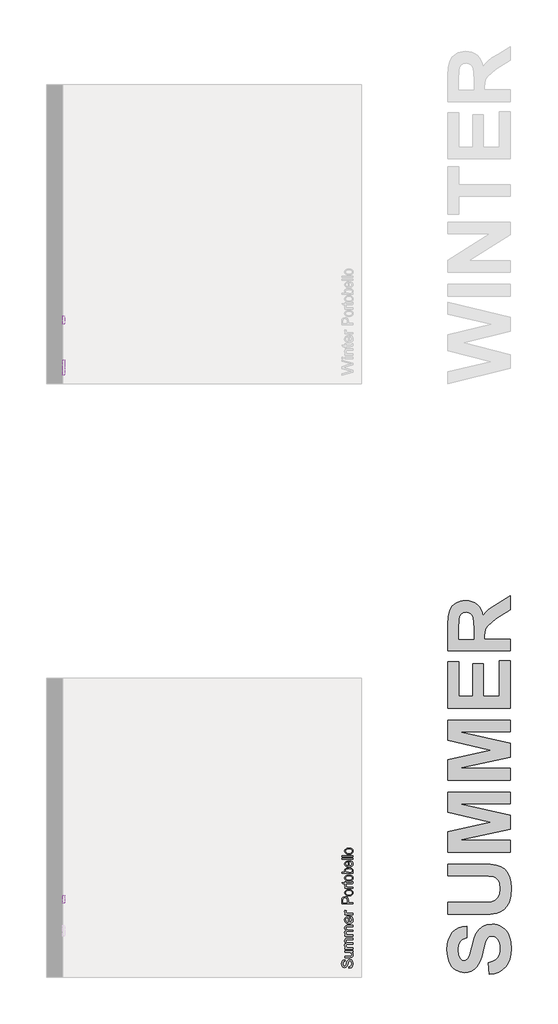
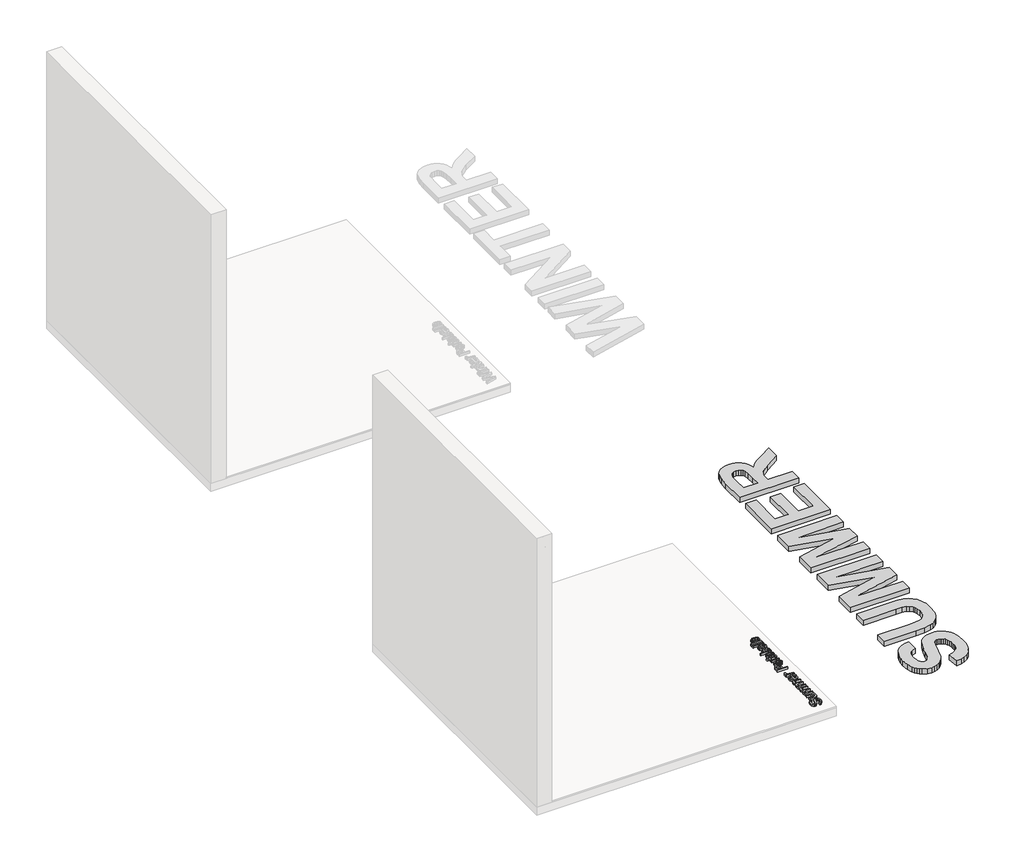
# One storey, part 6 of 7: 6 proxies.
"""IFC4 building model written with IfcOpenShell, lengths in millimetres."""

from ifc_helpers import new_model, si_unit, frame, origin, origin_with_axes, place, context, project, spatial, polyline, outline, extrude, element, save

model = new_model("IFC4")

# Units and contexts
model_context = context("Model", 3, world=origin())
ifc_project = project(units=[si_unit("LENGTHUNIT", "METRE", prefix="MILLI")], contexts=[model_context])

# Site, building, storey
site = spatial("IfcSite", under=ifc_project)
building = spatial("IfcBuilding", under=site)
storey = spatial("IfcBuildingStorey", under=building, Name="PORTOBELLO - SHOWROOM", Elevation=0.0)

# Proxies
placement = place(None, origin())
element("IfcBuildingElementProxy", 1, Name="10mm Arial", ObjectType="10mm Arial", at=placement, inside=storey, context=model_context, shape_type="SweptSolid", body=[
    extrude(outline(polyline([(7495.0671337, 2482.3811258), (7495.0671337, 2582.837436), (7532.2967916, 2582.837436), (7547.306377, 2581.8809428), (7559.5077965, 2577.184316), (7567.4172594, 2567.4722313), (7570.4093663, 2553.7747584), (7568.389081, 2541.9350895), (7562.3282251, 2532.0697206), (7550.994394, 2525.4110565), (7533.1551829, 2523.1915018), (7507.6241724, 2523.1915018), (7507.6241724, 2482.3811258), (7495.0671337, 2482.3811258)]), holes=[polyline([(7507.6241724, 2535.7485406), (7533.8909469, 2535.7485406), (7552.3831485, 2540.3593283), (7556.4850328, 2545.908215), (7557.8523275, 2553.3333), (7554.6272287, 2563.7320977), (7546.1536801, 2569.4220059), (7533.5966413, 2570.2803972), (7507.6241724, 2570.2803972), (7507.6241724, 2535.7485406)])]), frame((-21807.9634769, 0.0, 0.0), z_axis=(1.0, 0.0, 0.0), x_axis=(0.0, 1.0, 0.0)), (0.0, 0.0, 1.0), 20.0),
    extrude(outline(polyline([(7582.966405, 2519.2674272), (7585.6826004, 2537.0545217), (7593.8311866, 2549.5563782), (7603.8988906, 2555.6816134), (7615.9531573, 2557.7233584), (7629.1447925, 2555.2370893), (7639.681546, 2547.7782818), (7646.5885304, 2535.9355473), (7648.8908586, 2520.2974968), (7644.8196312, 2497.954797), (7632.9615682, 2485.3119191), (7615.9531573, 2480.811496), (7602.6021065, 2483.2885681), (7592.0776158, 2490.7197844), (7585.2442077, 2502.8108393), (7582.966405, 2519.2674272)]), holes=[polyline([(7595.5234438, 2519.2919527), (7596.9765777, 2507.9274647), (7601.3359793, 2499.8309951), (7607.8965416, 2494.9841499), (7615.9531573, 2493.3685348), (7623.9729848, 2494.9933469), (7630.5212843, 2499.8677833), (7634.8806859, 2508.0715518), (7636.3338198, 2519.6843601), (7634.8714889, 2530.7177543), (7630.4844961, 2538.7038593), (7623.9269995, 2543.5507046), (7615.9531573, 2545.1663197), (7607.8965416, 2543.5568359), (7601.3359793, 2538.7283848), (7596.9765777, 2530.6503093), (7595.5234438, 2519.2919527)])]), frame((-21807.9634769, 0.0, 0.0), z_axis=(1.0, 0.0, 0.0), x_axis=(0.0, 1.0, 0.0)), (0.0, 0.0, 1.0), 20.0),
    extrude(outline(polyline([(7663.0175272, 2482.3811258), (7663.0175272, 2556.1537286), (7674.0049361, 2556.1537286), (7674.0049361, 2545.2398961), (7681.8040344, 2555.2953373), (7689.6521836, 2557.7233584), (7702.2582733, 2553.8483348), (7698.0644186, 2542.5911457), (7689.2352507, 2545.1663197), (7682.1351282, 2542.6892476), (7677.6101797, 2535.822117), (7675.574566, 2521.1558881), (7675.574566, 2482.3811258), (7663.0175272, 2482.3811258)])), frame((-21807.9634769, 0.0, 0.0), z_axis=(1.0, 0.0, 0.0), x_axis=(0.0, 1.0, 0.0)), (0.0, 0.0, 1.0), 20.0),
    extrude(outline(polyline([(7736.79013, 2492.8535), (7738.3597598, 2482.0132438), (7728.9665062, 2480.811496), (7718.4450811, 2482.8961606), (7713.1966313, 2488.3653396), (7711.6760524, 2502.6146356), (7711.6760524, 2543.5966898), (7702.2582733, 2543.5966898), (7702.2582733, 2553.8483348), (7702.2582733, 2556.1537286), (7711.6760524, 2556.1537286), (7711.6760524, 2574.0818445), (7724.2330912, 2581.4640099), (7724.2330912, 2556.1537286), (7736.79013, 2556.1537286), (7736.79013, 2543.5966898), (7724.2330912, 2543.5966898), (7724.2330912, 2502.9825176), (7724.8952788, 2496.5077944), (7727.0412571, 2494.2146633), (7731.320951, 2493.3685348), (7736.79013, 2492.8535)])), frame((-21807.9634769, 0.0, 0.0), z_axis=(1.0, 0.0, 0.0), x_axis=(0.0, 1.0, 0.0)), (0.0, 0.0, 1.0), 20.0),
    extrude(outline(polyline([(7746.207909, 2519.2674272), (7748.9241044, 2537.0545217), (7757.0726906, 2549.5563782), (7767.1403946, 2555.6816134), (7779.1946613, 2557.7233584), (7792.3862965, 2555.2370893), (7802.92305, 2547.7782818), (7809.8300344, 2535.9355473), (7812.1323626, 2520.2974968), (7808.0611352, 2497.954797), (7796.2030722, 2485.3119191), (7779.1946613, 2480.811496), (7765.8436105, 2483.2885681), (7755.3191198, 2490.7197844), (7748.4857117, 2502.8108393), (7746.207909, 2519.2674272)]), holes=[polyline([(7758.7649478, 2519.2919527), (7760.2180817, 2507.9274647), (7764.5774833, 2499.8309951), (7771.1380456, 2494.9841499), (7779.1946613, 2493.3685348), (7787.2144888, 2494.9933469), (7793.7627883, 2499.8677833), (7798.1221899, 2508.0715518), (7799.5753238, 2519.6843601), (7798.1129929, 2530.7177543), (7793.7260001, 2538.7038593), (7787.1685035, 2543.5507046), (7779.1946613, 2545.1663197), (7771.1380456, 2543.5568359), (7764.5774833, 2538.7283848), (7760.2180817, 2530.6503093), (7758.7649478, 2519.2919527)])]), frame((-21807.9634769, 0.0, 0.0), z_axis=(1.0, 0.0, 0.0), x_axis=(0.0, 1.0, 0.0)), (0.0, 0.0, 1.0), 20.0),
    extrude(outline(polyline([(7838.81607, 2482.3811258), (7826.2590312, 2482.3811258), (7826.2590312, 2582.837436), (7838.81607, 2582.837436), (7838.81607, 2545.5832526), (7847.6084496, 2554.688332), (7858.5345449, 2557.7233584), (7871.1161091, 2554.9887689), (7880.8772447, 2547.3000352), (7886.8737213, 2535.3438704), (7889.044225, 2520.3710732), (7886.7970792, 2503.607917), (7880.0556416, 2491.1367173), (7870.1626816, 2483.3928013), (7858.4609685, 2480.811496), (7847.2957499, 2484.140828), (7838.81607, 2494.1288242), (7838.81607, 2482.3811258)]), holes=[polyline([(7838.81607, 2519.782462), (7842.2496352, 2502.2222281), (7848.8285916, 2495.5819581), (7857.381848, 2493.3685348), (7864.6291233, 2494.9994783), (7870.8218035, 2499.8923088), (7875.0708406, 2508.0163695), (7876.4871863, 2519.3410036), (7875.1290886, 2530.8311846), (7871.0547955, 2538.8632748), (7865.0552533, 2543.5905585), (7857.9214082, 2545.1663197), (7850.6741329, 2543.5353762), (7844.4814527, 2538.6425456), (7840.2324156, 2530.6656377), (7838.81607, 2519.782462)])]), frame((-21807.9634769, 0.0, 0.0), z_axis=(1.0, 0.0, 0.0), x_axis=(0.0, 1.0, 0.0)), (0.0, 0.0, 1.0), 20.0),
    extrude(outline(polyline([(7954.8215258, 2504.3559437), (7967.1333099, 2502.7863138), (7962.6972661, 2493.5095562), (7955.6186034, 2486.5749806), (7946.0567372, 2482.2523671), (7934.1710831, 2480.811496), (7919.4374092, 2483.2977651), (7908.1005124, 2490.7565726), (7900.8716312, 2502.7035404), (7898.4620041, 2518.6542906), (7900.8961566, 2535.1415353), (7908.1986142, 2547.4717135), (7919.3822269, 2555.1604472), (7933.4598446, 2557.7233584), (7947.0990695, 2555.1665786), (7957.9975737, 2547.496239), (7965.1436814, 2535.1905862), (7967.5257173, 2518.727867), (7967.4521409, 2515.3433526), (7911.0190429, 2515.3433526), (7913.1926123, 2505.9439676), (7918.2417927, 2499.0339175), (7925.5289219, 2494.7848804), (7934.4163378, 2493.3685348), (7946.7281219, 2495.9927597), (7954.8215258, 2504.3559437)]), holes=[polyline([(7911.0190429, 2527.9003914), (7954.9686786, 2527.9003914), (7949.940958, 2539.2802078), (7942.6201063, 2543.6947917), (7933.4107936, 2545.1663197), (7917.9474871, 2540.4696929), (7913.0822477, 2534.9790541), (7911.0190429, 2527.9003914)])]), frame((-21807.9634769, 0.0, 0.0), z_axis=(1.0, 0.0, 0.0), x_axis=(0.0, 1.0, 0.0)), (0.0, 0.0, 1.0), 20.0),
    extrude(outline(polyline([(-21787.9634769, 7992.6397949), (-21787.9634769, 7980.0827561), (-21807.9634769, 7980.0827561), (-21807.9634769, 7992.6397949), (-21787.9634769, 7992.6397949)])), frame((0.0, 0.0, 2482.3811258), z_axis=(0.0, 0.0, 1.0), x_axis=(1.0, 0.0, 0.0)), (0.0, 0.0, 1.0), 100.4563101),
    extrude(outline(polyline([(-21787.9634769, 8024.0323918), (-21787.9634769, 8011.475353), (-21807.9634769, 8011.475353), (-21807.9634769, 8024.0323918), (-21787.9634769, 8024.0323918)])), frame((0.0, 0.0, 2482.3811258), z_axis=(0.0, 0.0, 1.0), x_axis=(1.0, 0.0, 0.0)), (0.0, 0.0, 1.0), 100.4563101),
    extrude(outline(polyline([(8039.7286902, 2519.2674272), (8042.4448856, 2537.0545217), (8050.5934718, 2549.5563782), (8060.6611758, 2555.6816134), (8072.7154425, 2557.7233584), (8085.9070777, 2555.2370893), (8096.4438312, 2547.7782818), (8103.3508156, 2535.9355473), (8105.6531438, 2520.2974968), (8101.5819164, 2497.954797), (8089.7238534, 2485.3119191), (8072.7154425, 2480.811496), (8059.3643917, 2483.2885681), (8048.839901, 2490.7197844), (8042.0064929, 2502.8108393), (8039.7286902, 2519.2674272)]), holes=[polyline([(8052.285729, 2519.2919527), (8053.7388629, 2507.9274647), (8058.0982645, 2499.8309951), (8064.6588268, 2494.9841499), (8072.7154425, 2493.3685348), (8080.73527, 2494.9933469), (8087.2835695, 2499.8677833), (8091.6429711, 2508.0715518), (8093.096105, 2519.6843601), (8091.6337741, 2530.7177543), (8087.2467813, 2538.7038593), (8080.6892847, 2543.5507046), (8072.7154425, 2545.1663197), (8064.6588268, 2543.5568359), (8058.0982645, 2538.7283848), (8053.7388629, 2530.6503093), (8052.285729, 2519.2919527)])]), frame((-21807.9634769, 0.0, 0.0), z_axis=(1.0, 0.0, 0.0), x_axis=(0.0, 1.0, 0.0)), (0.0, 0.0, 1.0), 20.0),
])
element("IfcBuildingElementProxy", 2, Name="10mm Arial", ObjectType="10mm Arial", at=placement, inside=storey, context=model_context, shape_type="SweptSolid", body=[
    extrude(outline(polyline([(-19218.0670497, 6910.1794036), (-19218.0670497, 6922.7364424), (-19205.4977482, 6926.7831443), (-19197.5514971, 6936.6669073), (-19194.522602, 6951.7255436), (-19196.8157331, 6964.8466681), (-19203.118778, 6973.3202167), (-19211.5432757, 6976.1038571), (-19219.3791622, 6974.0191925), (-19225.0813331, 6965.4843302), (-19229.8760617, 6947.2005951), (-19236.068742, 6927.5189083), (-19245.4129447, 6916.8380677), (-19257.896407, 6913.3186633), (-19272.1089148, 6917.6719336), (-19282.1398305, 6930.3883879), (-19285.5611331, 6949.0032168), (-19281.980415, 6968.8688446), (-19271.4589899, 6982.1125964), (-19255.738166, 6987.0912661), (-19255.738166, 6974.5342273), (-19263.230696, 6972.2288335), (-19268.6385613, 6967.4218421), (-19273.0040943, 6949.4937262), (-19268.6876122, 6931.5165593), (-19258.264289, 6925.8757021), (-19249.5577485, 6929.8733531), (-19242.5434651, 6950.376643), (-19236.2404203, 6972.5967155), (-19226.0623517, 6984.749084), (-19211.8621067, 6988.6608959), (-19196.8402586, 6984.1604728), (-19185.8773751, 6971.2110266), (-19181.9655632, 6952.2160529), (-19186.1839435, 6929.787514), (-19198.888135, 6915.5995317), (-19218.0670497, 6910.1794036)])), frame((0.0, 0.0, 15.0), z_axis=(0.0, 0.0, 1.0), x_axis=(1.0, 0.0, 0.0)), (0.0, 0.0, 1.0), 20.0),
    extrude(outline(polyline([(-19183.5351931, 7053.0157196), (-19196.2148592, 7053.0157196), (-19185.5278872, 7043.1810076), (-19181.9655632, 7030.3541887), (-19184.4671608, 7018.5451767), (-19190.7456802, 7010.4027218), (-19199.991781, 7006.6625882), (-19211.665903, 7005.9268242), (-19257.3077959, 7005.9268242), (-19257.3077959, 7018.483863), (-19217.5765404, 7018.483863), (-19204.7742469, 7019.2441524), (-19197.2571915, 7024.2105594), (-19194.522602, 7033.5670248), (-19197.3185052, 7044.0516617), (-19204.9336625, 7050.9801059), (-19218.925441, 7053.0157196), (-19257.3077959, 7053.0157196), (-19257.3077959, 7065.5727584), (-19183.5351931, 7065.5727584), (-19183.5351931, 7053.0157196)])), frame((0.0, 0.0, 15.0), z_axis=(0.0, 0.0, 1.0), x_axis=(1.0, 0.0, 0.0)), (0.0, 0.0, 1.0), 20.0),
    extrude(outline(polyline([(-19183.5351931, 7082.8386867), (-19257.3077959, 7082.8386867), (-19257.3077959, 7095.3957255), (-19245.16769, 7095.3957255), (-19255.1127666, 7104.0286896), (-19258.8774257, 7116.3159482), (-19255.0391902, 7128.8975125), (-19244.2847732, 7135.813694), (-19255.2292626, 7145.6116178), (-19258.8774257, 7157.9847156), (-19257.3599125, 7167.4239544), (-19252.8073728, 7174.4045153), (-19245.0971793, 7178.7179317), (-19234.1067047, 7180.1557371), (-19183.5351931, 7180.1557371), (-19183.5351931, 7167.5986984), (-19228.7111021, 7167.5986984), (-19239.195739, 7166.4337387), (-19244.3583496, 7162.2153585), (-19246.3203869, 7155.0416596), (-19241.2926663, 7142.6930873), (-19234.7504982, 7139.0050703), (-19225.1794349, 7137.7757313), (-19183.5351931, 7137.7757313), (-19183.5351931, 7125.2186925), (-19230.1090537, 7125.2186925), (-19242.273685, 7122.3124248), (-19246.3203869, 7112.7842811), (-19243.6225856, 7103.4891293), (-19235.7253855, 7097.3087118), (-19220.7403255, 7095.3957255), (-19183.5351931, 7095.3957255), (-19183.5351931, 7082.8386867)])), frame((0.0, 0.0, 15.0), z_axis=(0.0, 0.0, 1.0), x_axis=(1.0, 0.0, 0.0)), (0.0, 0.0, 1.0), 20.0),
    extrude(outline(polyline([(-19183.5351931, 7198.9912953), (-19257.3077959, 7198.9912953), (-19257.3077959, 7211.5483341), (-19245.16769, 7211.5483341), (-19255.1127666, 7220.1812982), (-19258.8774257, 7232.4685569), (-19255.0391902, 7245.0501211), (-19244.2847732, 7251.9663026), (-19255.2292626, 7261.7642264), (-19258.8774257, 7274.1373242), (-19257.3599125, 7283.576563), (-19252.8073728, 7290.5571239), (-19245.0971793, 7294.8705403), (-19234.1067047, 7296.3083458), (-19183.5351931, 7296.3083458), (-19183.5351931, 7283.751307), (-19228.7111021, 7283.751307), (-19239.195739, 7282.5863473), (-19244.3583496, 7278.3679671), (-19246.3203869, 7271.1942682), (-19241.2926663, 7258.8456959), (-19234.7504982, 7255.1576789), (-19225.1794349, 7253.9283399), (-19183.5351931, 7253.9283399), (-19183.5351931, 7241.3713011), (-19230.1090537, 7241.3713011), (-19242.273685, 7238.4650334), (-19246.3203869, 7228.9368897), (-19243.6225856, 7219.641738), (-19235.7253855, 7213.4613204), (-19220.7403255, 7211.5483341), (-19183.5351931, 7211.5483341), (-19183.5351931, 7198.9912953)])), frame((0.0, 0.0, 15.0), z_axis=(0.0, 0.0, 1.0), x_axis=(1.0, 0.0, 0.0)), (0.0, 0.0, 1.0), 20.0),
    extrude(outline(polyline([(-19205.5100109, 7366.794536), (-19203.9403811, 7379.1063201), (-19194.6636234, 7374.6702764), (-19187.7290478, 7367.5916137), (-19183.4064344, 7358.0297475), (-19181.9655632, 7346.1440934), (-19184.4518324, 7331.4104195), (-19191.9106398, 7320.0735226), (-19203.8576076, 7312.8446414), (-19219.8083578, 7310.4350144), (-19236.2956026, 7312.8691669), (-19248.6257808, 7320.1716245), (-19256.3145145, 7331.3552372), (-19258.8774257, 7345.4328548), (-19256.3206458, 7359.0720798), (-19248.6503062, 7369.9705839), (-19236.3446535, 7377.1166917), (-19219.8819342, 7379.4987276), (-19216.4974199, 7379.4251512), (-19216.4974199, 7322.9920531), (-19207.0980349, 7325.1656226), (-19200.1879847, 7330.214803), (-19195.9389477, 7337.5019322), (-19194.522602, 7346.389348), (-19197.1468269, 7358.7011321), (-19205.5100109, 7366.794536)]), holes=[polyline([(-19229.0544586, 7322.9920531), (-19229.0544586, 7366.9416888), (-19240.434275, 7361.9139682), (-19244.848859, 7354.5931165), (-19246.3203869, 7345.3838039), (-19241.6237601, 7329.9204974), (-19236.1331213, 7325.055258), (-19229.0544586, 7322.9920531)])]), frame((0.0, 0.0, 15.0), z_axis=(0.0, 0.0, 1.0), x_axis=(1.0, 0.0, 0.0)), (0.0, 0.0, 1.0), 20.0),
    extrude(outline(polyline([(-19183.5351931, 7392.0557664), (-19257.3077959, 7392.0557664), (-19257.3077959, 7403.0431753), (-19246.3939633, 7403.0431753), (-19256.4494045, 7410.8422736), (-19258.8774257, 7418.6904228), (-19255.002402, 7431.2965125), (-19243.745213, 7427.1026578), (-19246.3203869, 7418.2734899), (-19243.8433148, 7411.1733674), (-19236.9761843, 7406.6484188), (-19222.3099554, 7404.6128051), (-19183.5351931, 7404.6128051), (-19183.5351931, 7392.0557664)])), frame((0.0, 0.0, 15.0), z_axis=(0.0, 0.0, 1.0), x_axis=(1.0, 0.0, 0.0)), (0.0, 0.0, 1.0), 20.0),
])
element("IfcBuildingElementProxy", 3, Name="10mm Arial", ObjectType="10mm Arial", at=placement, inside=storey, context=model_context, shape_type="SweptSolid", body=[
    extrude(outline(polyline([(12292.86546, 2482.3811258), (12265.4705141, 2582.837436), (12278.4199603, 2582.837436), (12294.3124625, 2516.8148806), (12299.2175558, 2496.434218), (12304.4660056, 2514.4604358), (12324.3806842, 2582.837436), (12343.0445641, 2582.837436), (12357.5145893, 2533.2714685), (12368.281269, 2496.434218), (12373.0392095, 2516.2262694), (12389.0788645, 2582.837436), (12402.0283107, 2582.837436), (12374.6088393, 2482.3811258), (12361.1934092, 2482.3811258), (12337.1094013, 2559.8815995), (12333.7494124, 2570.6973301), (12329.9724906, 2557.6743075), (12308.0221982, 2482.3811258), (12292.86546, 2482.3811258)])), frame((-21807.9634769, 0.0, 0.0), z_axis=(1.0, 0.0, 0.0), x_axis=(0.0, 1.0, 0.0)), (0.0, 0.0, 1.0), 20.0),
    extrude(outline(polyline([(-21787.9634769, 12425.5727584), (-21787.9634769, 12413.0157196), (-21807.9634769, 12413.0157196), (-21807.9634769, 12425.5727584), (-21787.9634769, 12425.5727584)])), frame((0.0, 0.0, 2482.3811258), z_axis=(0.0, 0.0, 1.0), x_axis=(1.0, 0.0, 0.0)), (0.0, 0.0, 1.0), 73.7726028),
    extrude(outline(polyline([(-21787.9634769, 12425.5727584), (-21787.9634769, 12413.0157196), (-21807.9634769, 12413.0157196), (-21807.9634769, 12425.5727584), (-21787.9634769, 12425.5727584)])), frame((0.0, 0.0, 2570.2803972), z_axis=(0.0, 0.0, 1.0), x_axis=(1.0, 0.0, 0.0)), (0.0, 0.0, 1.0), 12.5570388),
    extrude(outline(polyline([(12444.4083165, 2482.3811258), (12444.4083165, 2556.1537286), (12456.9653553, 2556.1537286), (12456.9653553, 2545.8530327), (12466.5670754, 2554.755777), (12479.6759371, 2557.7233584), (12491.5340001, 2555.3321255), (12499.627404, 2549.0536061), (12503.3920631, 2539.819768), (12504.0542507, 2527.6796622), (12504.0542507, 2482.3811258), (12491.4972119, 2482.3811258), (12491.4972119, 2525.987405), (12490.0502094, 2537.0974412), (12484.9366497, 2542.9712904), (12476.3159482, 2545.1663197), (12462.6920517, 2540.2367009), (12458.3970294, 2533.0936589), (12456.9653553, 2521.5237701), (12456.9653553, 2482.3811258), (12444.4083165, 2482.3811258)])), frame((-21807.9634769, 0.0, 0.0), z_axis=(1.0, 0.0, 0.0), x_axis=(0.0, 1.0, 0.0)), (0.0, 0.0, 1.0), 20.0),
    extrude(outline(polyline([(12548.0038864, 2492.8535), (12549.5735162, 2482.0132438), (12540.1802626, 2480.811496), (12529.6588375, 2482.8961606), (12524.4103877, 2488.3653396), (12522.8898088, 2502.6146356), (12522.8898088, 2543.5966898), (12513.4720298, 2543.5966898), (12513.4720298, 2556.1537286), (12522.8898088, 2556.1537286), (12522.8898088, 2574.0818445), (12535.4468476, 2581.4640099), (12535.4468476, 2556.1537286), (12548.0038864, 2556.1537286), (12548.0038864, 2543.5966898), (12535.4468476, 2543.5966898), (12535.4468476, 2502.9825176), (12536.1090352, 2496.5077944), (12538.2550135, 2494.2146633), (12542.5347074, 2493.3685348), (12548.0038864, 2492.8535)])), frame((-21807.9634769, 0.0, 0.0), z_axis=(1.0, 0.0, 0.0), x_axis=(0.0, 1.0, 0.0)), (0.0, 0.0, 1.0), 20.0),
    extrude(outline(polyline([(12612.2115573, 2504.3559437), (12624.5233414, 2502.7863138), (12620.0872976, 2493.5095562), (12613.0086349, 2486.5749806), (12603.4467687, 2482.2523671), (12591.5611146, 2480.811496), (12576.8274407, 2483.2977651), (12565.4905439, 2490.7565726), (12558.2616627, 2502.7035404), (12555.8520356, 2518.6542906), (12558.2861881, 2535.1415353), (12565.5886457, 2547.4717135), (12576.7722584, 2555.1604472), (12590.8498761, 2557.7233584), (12604.489101, 2555.1665786), (12615.3876052, 2547.496239), (12622.5337129, 2535.1905862), (12624.9157488, 2518.727867), (12624.8421724, 2515.3433526), (12568.4090744, 2515.3433526), (12570.5826438, 2505.9439676), (12575.6318242, 2499.0339175), (12582.9189534, 2494.7848804), (12591.8063693, 2493.3685348), (12604.1181534, 2495.9927597), (12612.2115573, 2504.3559437)]), holes=[polyline([(12568.4090744, 2527.9003914), (12612.3587101, 2527.9003914), (12607.3309895, 2539.2802078), (12600.0101378, 2543.6947917), (12590.8008251, 2545.1663197), (12575.3375186, 2540.4696929), (12570.4722792, 2534.9790541), (12568.4090744, 2527.9003914)])]), frame((-21807.9634769, 0.0, 0.0), z_axis=(1.0, 0.0, 0.0), x_axis=(0.0, 1.0, 0.0)), (0.0, 0.0, 1.0), 20.0),
    extrude(outline(polyline([(12637.4727876, 2482.3811258), (12637.4727876, 2556.1537286), (12648.4601965, 2556.1537286), (12648.4601965, 2545.2398961), (12656.2592948, 2555.2953373), (12664.107444, 2557.7233584), (12676.7135337, 2553.8483348), (12672.519679, 2542.5911457), (12663.6905111, 2545.1663197), (12656.5903886, 2542.6892476), (12652.0654401, 2535.822117), (12650.0298264, 2521.1558881), (12650.0298264, 2482.3811258), (12637.4727876, 2482.3811258)])), frame((-21807.9634769, 0.0, 0.0), z_axis=(1.0, 0.0, 0.0), x_axis=(0.0, 1.0, 0.0)), (0.0, 0.0, 1.0), 20.0),
])
element("IfcBuildingElementProxy", 4, Name="10mm Arial", ObjectType="10mm Arial", at=placement, inside=storey, context=model_context, shape_type="SweptSolid", body=[
    extrude(outline(polyline([(12725.0671337, 2482.3811258), (12725.0671337, 2582.837436), (12762.2967916, 2582.837436), (12777.306377, 2581.8809428), (12789.5077965, 2577.184316), (12797.4172594, 2567.4722313), (12800.4093663, 2553.7747584), (12798.389081, 2541.9350895), (12792.3282251, 2532.0697206), (12780.994394, 2525.4110565), (12763.1551829, 2523.1915018), (12737.6241724, 2523.1915018), (12737.6241724, 2482.3811258), (12725.0671337, 2482.3811258)]), holes=[polyline([(12737.6241724, 2535.7485406), (12763.8909469, 2535.7485406), (12782.3831485, 2540.3593283), (12786.4850328, 2545.908215), (12787.8523275, 2553.3333), (12784.6272287, 2563.7320977), (12776.1536801, 2569.4220059), (12763.5966413, 2570.2803972), (12737.6241724, 2570.2803972), (12737.6241724, 2535.7485406)])]), frame((-21807.9634769, 0.0, 0.0), z_axis=(1.0, 0.0, 0.0), x_axis=(0.0, 1.0, 0.0)), (0.0, 0.0, 1.0), 20.0),
    extrude(outline(polyline([(12812.966405, 2519.2674272), (12815.6826004, 2537.0545217), (12823.8311866, 2549.5563782), (12833.8988906, 2555.6816134), (12845.9531573, 2557.7233584), (12859.1447925, 2555.2370893), (12869.681546, 2547.7782818), (12876.5885304, 2535.9355473), (12878.8908586, 2520.2974968), (12874.8196312, 2497.954797), (12862.9615682, 2485.3119191), (12845.9531573, 2480.811496), (12832.6021065, 2483.2885681), (12822.0776158, 2490.7197844), (12815.2442077, 2502.8108393), (12812.966405, 2519.2674272)]), holes=[polyline([(12825.5234438, 2519.2919527), (12826.9765777, 2507.9274647), (12831.3359793, 2499.8309951), (12837.8965416, 2494.9841499), (12845.9531573, 2493.3685348), (12853.9729848, 2494.9933469), (12860.5212843, 2499.8677833), (12864.8806859, 2508.0715518), (12866.3338198, 2519.6843601), (12864.8714889, 2530.7177543), (12860.4844961, 2538.7038593), (12853.9269995, 2543.5507046), (12845.9531573, 2545.1663197), (12837.8965416, 2543.5568359), (12831.3359793, 2538.7283848), (12826.9765777, 2530.6503093), (12825.5234438, 2519.2919527)])]), frame((-21807.9634769, 0.0, 0.0), z_axis=(1.0, 0.0, 0.0), x_axis=(0.0, 1.0, 0.0)), (0.0, 0.0, 1.0), 20.0),
    extrude(outline(polyline([(12893.0175272, 2482.3811258), (12893.0175272, 2556.1537286), (12904.0049361, 2556.1537286), (12904.0049361, 2545.2398961), (12911.8040344, 2555.2953373), (12919.6521836, 2557.7233584), (12932.2582733, 2553.8483348), (12928.0644186, 2542.5911457), (12919.2352507, 2545.1663197), (12912.1351282, 2542.6892476), (12907.6101797, 2535.822117), (12905.574566, 2521.1558881), (12905.574566, 2482.3811258), (12893.0175272, 2482.3811258)])), frame((-21807.9634769, 0.0, 0.0), z_axis=(1.0, 0.0, 0.0), x_axis=(0.0, 1.0, 0.0)), (0.0, 0.0, 1.0), 20.0),
    extrude(outline(polyline([(12966.79013, 2492.8535), (12968.3597598, 2482.0132438), (12958.9665062, 2480.811496), (12948.4450811, 2482.8961606), (12943.1966313, 2488.3653396), (12941.6760524, 2502.6146356), (12941.6760524, 2543.5966898), (12932.2582733, 2543.5966898), (12932.2582733, 2553.8483348), (12932.2582733, 2556.1537286), (12941.6760524, 2556.1537286), (12941.6760524, 2574.0818445), (12954.2330912, 2581.4640099), (12954.2330912, 2556.1537286), (12966.79013, 2556.1537286), (12966.79013, 2543.5966898), (12954.2330912, 2543.5966898), (12954.2330912, 2502.9825176), (12954.8952788, 2496.5077944), (12957.0412571, 2494.2146633), (12961.320951, 2493.3685348), (12966.79013, 2492.8535)])), frame((-21807.9634769, 0.0, 0.0), z_axis=(1.0, 0.0, 0.0), x_axis=(0.0, 1.0, 0.0)), (0.0, 0.0, 1.0), 20.0),
    extrude(outline(polyline([(12976.207909, 2519.2674272), (12978.9241044, 2537.0545217), (12987.0726906, 2549.5563782), (12997.1403946, 2555.6816134), (13009.1946613, 2557.7233584), (13022.3862965, 2555.2370893), (13032.92305, 2547.7782818), (13039.8300344, 2535.9355473), (13042.1323626, 2520.2974968), (13038.0611352, 2497.954797), (13026.2030722, 2485.3119191), (13009.1946613, 2480.811496), (12995.8436105, 2483.2885681), (12985.3191198, 2490.7197844), (12978.4857117, 2502.8108393), (12976.207909, 2519.2674272)]), holes=[polyline([(12988.7649478, 2519.2919527), (12990.2180817, 2507.9274647), (12994.5774833, 2499.8309951), (13001.1380456, 2494.9841499), (13009.1946613, 2493.3685348), (13017.2144888, 2494.9933469), (13023.7627883, 2499.8677833), (13028.1221899, 2508.0715518), (13029.5753238, 2519.6843601), (13028.1129929, 2530.7177543), (13023.7260001, 2538.7038593), (13017.1685035, 2543.5507046), (13009.1946613, 2545.1663197), (13001.1380456, 2543.5568359), (12994.5774833, 2538.7283848), (12990.2180817, 2530.6503093), (12988.7649478, 2519.2919527)])]), frame((-21807.9634769, 0.0, 0.0), z_axis=(1.0, 0.0, 0.0), x_axis=(0.0, 1.0, 0.0)), (0.0, 0.0, 1.0), 20.0),
    extrude(outline(polyline([(13068.81607, 2482.3811258), (13056.2590312, 2482.3811258), (13056.2590312, 2582.837436), (13068.81607, 2582.837436), (13068.81607, 2545.5832526), (13077.6084496, 2554.688332), (13088.5345449, 2557.7233584), (13101.1161091, 2554.9887689), (13110.8772447, 2547.3000352), (13116.8737213, 2535.3438704), (13119.044225, 2520.3710732), (13116.7970792, 2503.607917), (13110.0556416, 2491.1367173), (13100.1626816, 2483.3928013), (13088.4609685, 2480.811496), (13077.2957499, 2484.140828), (13068.81607, 2494.1288242), (13068.81607, 2482.3811258)]), holes=[polyline([(13068.81607, 2519.782462), (13072.2496352, 2502.2222281), (13078.8285916, 2495.5819581), (13087.381848, 2493.3685348), (13094.6291233, 2494.9994783), (13100.8218035, 2499.8923088), (13105.0708406, 2508.0163695), (13106.4871863, 2519.3410036), (13105.1290886, 2530.8311846), (13101.0547955, 2538.8632748), (13095.0552533, 2543.5905585), (13087.9214082, 2545.1663197), (13080.6741329, 2543.5353762), (13074.4814527, 2538.6425456), (13070.2324156, 2530.6656377), (13068.81607, 2519.782462)])]), frame((-21807.9634769, 0.0, 0.0), z_axis=(1.0, 0.0, 0.0), x_axis=(0.0, 1.0, 0.0)), (0.0, 0.0, 1.0), 20.0),
    extrude(outline(polyline([(13184.8215258, 2504.3559437), (13197.1333099, 2502.7863138), (13192.6972661, 2493.5095562), (13185.6186034, 2486.5749806), (13176.0567372, 2482.2523671), (13164.1710831, 2480.811496), (13149.4374092, 2483.2977651), (13138.1005124, 2490.7565726), (13130.8716312, 2502.7035404), (13128.4620041, 2518.6542906), (13130.8961566, 2535.1415353), (13138.1986142, 2547.4717135), (13149.3822269, 2555.1604472), (13163.4598446, 2557.7233584), (13177.0990695, 2555.1665786), (13187.9975737, 2547.496239), (13195.1436814, 2535.1905862), (13197.5257173, 2518.727867), (13197.4521409, 2515.3433526), (13141.0190429, 2515.3433526), (13143.1926123, 2505.9439676), (13148.2417927, 2499.0339175), (13155.5289219, 2494.7848804), (13164.4163378, 2493.3685348), (13176.7281219, 2495.9927597), (13184.8215258, 2504.3559437)]), holes=[polyline([(13141.0190429, 2527.9003914), (13184.9686786, 2527.9003914), (13179.940958, 2539.2802078), (13172.6201063, 2543.6947917), (13163.4107936, 2545.1663197), (13147.9474871, 2540.4696929), (13143.0822477, 2534.9790541), (13141.0190429, 2527.9003914)])]), frame((-21807.9634769, 0.0, 0.0), z_axis=(1.0, 0.0, 0.0), x_axis=(0.0, 1.0, 0.0)), (0.0, 0.0, 1.0), 20.0),
    extrude(outline(polyline([(-21787.9634769, 13222.6397949), (-21787.9634769, 13210.0827561), (-21807.9634769, 13210.0827561), (-21807.9634769, 13222.6397949), (-21787.9634769, 13222.6397949)])), frame((0.0, 0.0, 2482.3811258), z_axis=(0.0, 0.0, 1.0), x_axis=(1.0, 0.0, 0.0)), (0.0, 0.0, 1.0), 100.4563101),
    extrude(outline(polyline([(-21787.9634769, 13254.0323918), (-21787.9634769, 13241.475353), (-21807.9634769, 13241.475353), (-21807.9634769, 13254.0323918), (-21787.9634769, 13254.0323918)])), frame((0.0, 0.0, 2482.3811258), z_axis=(0.0, 0.0, 1.0), x_axis=(1.0, 0.0, 0.0)), (0.0, 0.0, 1.0), 100.4563101),
    extrude(outline(polyline([(13269.7286902, 2519.2674272), (13272.4448856, 2537.0545217), (13280.5934718, 2549.5563782), (13290.6611758, 2555.6816134), (13302.7154425, 2557.7233584), (13315.9070777, 2555.2370893), (13326.4438312, 2547.7782818), (13333.3508156, 2535.9355473), (13335.6531438, 2520.2974968), (13331.5819164, 2497.954797), (13319.7238534, 2485.3119191), (13302.7154425, 2480.811496), (13289.3643917, 2483.2885681), (13278.839901, 2490.7197844), (13272.0064929, 2502.8108393), (13269.7286902, 2519.2674272)]), holes=[polyline([(13282.285729, 2519.2919527), (13283.7388629, 2507.9274647), (13288.0982645, 2499.8309951), (13294.6588268, 2494.9841499), (13302.7154425, 2493.3685348), (13310.73527, 2494.9933469), (13317.2835695, 2499.8677833), (13321.6429711, 2508.0715518), (13323.096105, 2519.6843601), (13321.6337741, 2530.7177543), (13317.2467813, 2538.7038593), (13310.6892847, 2543.5507046), (13302.7154425, 2545.1663197), (13294.6588268, 2543.5568359), (13288.0982645, 2538.7283848), (13283.7388629, 2530.6503093), (13282.285729, 2519.2919527)])]), frame((-21807.9634769, 0.0, 0.0), z_axis=(1.0, 0.0, 0.0), x_axis=(0.0, 1.0, 0.0)), (0.0, 0.0, 1.0), 20.0),
])
element("IfcBuildingElementProxy", 5, Name="10mm Arial Narrow", ObjectType="10mm Arial Narrow", at=placement, inside=storey, context=model_context, shape_type="SweptSolid", body=[
    extrude(outline(polyline([(-19183.5351931, 7492.2021928), (-19284.2537968, 7492.2021928), (-19284.2537968, 7523.4990775), (-19282.3754761, 7539.794779), (-19272.8950329, 7551.2677651), (-19255.8759241, 7555.5574435), (-19243.8000986, 7553.7711351), (-19234.1737048, 7548.4122099), (-19227.8724464, 7538.6684211), (-19225.7720269, 7523.7275219), (-19225.7720269, 7501.9491544), (-19183.5351931, 7501.9491544), (-19183.5351931, 7492.2021928)]), holes=[polyline([(-19237.1434822, 7501.9491544), (-19237.1434822, 7524.9205094), (-19241.6742964, 7540.7847048), (-19255.3428871, 7545.8104819), (-19265.5086636, 7543.3356674), (-19271.3086134, 7537.3580386), (-19272.8823416, 7524.692065), (-19272.8823416, 7501.9491544), (-19237.1434822, 7501.9491544)])]), frame((0.0, 0.0, 15.0), z_axis=(0.0, 0.0, 1.0), x_axis=(1.0, 0.0, 0.0)), (0.0, 0.0, 1.0), 20.0),
    extrude(outline(polyline([(-19220.0862993, 7563.6799116), (-19236.6770748, 7565.6343804), (-19248.6291597, 7571.4977871), (-19255.8537142, 7580.3563538), (-19258.2618991, 7591.2963029), (-19255.8537142, 7602.1093385), (-19248.6291597, 7610.9932879), (-19236.8674452, 7616.9328427), (-19220.8477807, 7618.9126943), (-19203.6858941, 7616.9677439), (-19191.5434389, 7611.1328929), (-19184.3188843, 7602.2838447), (-19181.9106995, 7591.2963029), (-19184.32523, 7580.4356748), (-19191.5688216, 7571.5612438), (-19203.5272521, 7565.6502446), (-19220.0862993, 7563.6799116)]), holes=[polyline([(-19220.111682, 7573.4268732), (-19207.5599306, 7574.7309101), (-19198.6886725, 7578.6430207), (-19193.415414, 7584.4842174), (-19191.6576611, 7591.5755128), (-19193.4312782, 7598.2955859), (-19198.7521293, 7603.9876592), (-19207.6392516, 7607.8712143), (-19220.111682, 7609.1657326), (-19232.6253593, 7607.8616958), (-19241.483926, 7603.9495852), (-19246.7571846, 7598.1083884), (-19248.5149374, 7591.0170931), (-19246.7476661, 7584.2494273), (-19241.445852, 7578.5668725), (-19232.5777667, 7574.7118731), (-19220.111682, 7573.4268732)])]), frame((0.0, 0.0, 15.0), z_axis=(0.0, 0.0, 1.0), x_axis=(1.0, 0.0, 0.0)), (0.0, 0.0, 1.0), 20.0),
    extrude(outline(polyline([(-19191.6576611, 7690.3904131), (-19181.9106995, 7692.0149067), (-19181.9106995, 7684.65392), (-19184.030156, 7676.3791557), (-19189.8301058, 7672.0640945), (-19204.475931, 7670.8964898), (-19246.8904438, 7670.8964898), (-19246.8904438, 7662.7740217), (-19250.1394311, 7662.7740217), (-19245.2659502, 7661.1495281), (-19246.8904438, 7653.5854797), (-19244.5679256, 7647.5063201), (-19238.0826425, 7643.6354564), (-19222.675336, 7641.6556048), (-19183.5351931, 7641.6556048), (-19183.5351931, 7631.9086431), (-19256.6374055, 7631.9086431), (-19256.6374055, 7641.6556048), (-19246.9412093, 7641.6556048), (-19256.0282204, 7647.8997521), (-19258.2618991, 7654.2961957), (-19256.6374055, 7662.7740217), (-19256.6374055, 7670.8964898), (-19272.8823416, 7670.8964898), (-19281.0048096, 7680.6434514), (-19256.6374055, 7680.6434514), (-19256.6374055, 7690.3904131), (-19246.8904438, 7690.3904131), (-19246.8904438, 7680.6434514), (-19202.2422523, 7680.6434514), (-19194.2466978, 7681.5064636), (-19191.6576611, 7686.1261173), (-19191.6576611, 7690.3904131)])), frame((0.0, 0.0, 15.0), z_axis=(0.0, 0.0, 1.0), x_axis=(1.0, 0.0, 0.0)), (0.0, 0.0, 1.0), 20.0),
    extrude(outline(polyline([(-19220.0862993, 7696.8883875), (-19236.6770748, 7698.8428564), (-19248.6291597, 7704.706263), (-19255.8537142, 7713.5648297), (-19258.2618991, 7724.5047789), (-19255.8537142, 7735.3178144), (-19248.6291597, 7744.2017639), (-19236.8674452, 7750.1413186), (-19220.8477807, 7752.1211702), (-19203.6858941, 7750.1762198), (-19191.5434389, 7744.3413688), (-19184.3188843, 7735.4923206), (-19181.9106995, 7724.5047789), (-19184.32523, 7713.6441507), (-19191.5688216, 7704.7697198), (-19203.5272521, 7698.8587206), (-19220.0862993, 7696.8883875)]), holes=[polyline([(-19220.111682, 7706.6353492), (-19207.5599306, 7707.939386), (-19198.6886725, 7711.8514966), (-19193.415414, 7717.6926933), (-19191.6576611, 7724.7839887), (-19193.4312782, 7731.5040619), (-19198.7521293, 7737.1961352), (-19207.6392516, 7741.0796902), (-19220.111682, 7742.3742086), (-19232.6253593, 7741.0701717), (-19241.483926, 7737.1580611), (-19246.7571846, 7731.3168644), (-19248.5149374, 7724.225569), (-19246.7476661, 7717.4579033), (-19241.445852, 7711.7753485), (-19232.5777667, 7707.920349), (-19220.111682, 7706.6353492)])]), frame((0.0, 0.0, 15.0), z_axis=(0.0, 0.0, 1.0), x_axis=(1.0, 0.0, 0.0)), (0.0, 0.0, 1.0), 20.0),
    extrude(outline(polyline([(-19183.5351931, 7774.8640807), (-19183.5351931, 7765.1171191), (-19284.2537968, 7765.1171191), (-19284.2537968, 7774.8640807), (-19248.8449127, 7774.8640807), (-19255.9266895, 7782.2631415), (-19258.2618991, 7791.4643748), (-19254.0610602, 7804.3461015), (-19241.3316298, 7813.6234829), (-19220.644719, 7817.1009146), (-19204.1903755, 7815.1686556), (-19191.9876364, 7809.3718786), (-19184.4299337, 7800.9987562), (-19181.9106995, 7791.3374612), (-19184.5251189, 7781.996623), (-19192.2922289, 7774.8640807), (-19183.5351931, 7774.8640807)]), holes=[polyline([(-19220.644719, 7774.8640807), (-19203.3971657, 7776.9454632), (-19194.6655126, 7782.8342525), (-19191.6576611, 7791.2866958), (-19193.4471424, 7797.2294234), (-19198.8155861, 7802.4677807), (-19220.2385956, 7807.3539529), (-19241.6742964, 7802.6454597), (-19246.8047772, 7797.4007567), (-19248.5149374, 7791.0836341), (-19246.7254562, 7785.1060053), (-19241.3570125, 7779.8137097), (-19220.644719, 7774.8640807)])]), frame((0.0, 0.0, 15.0), z_axis=(0.0, 0.0, 1.0), x_axis=(1.0, 0.0, 0.0)), (0.0, 0.0, 1.0), 20.0),
    extrude(outline(polyline([(-19206.2781036, 7869.08471), (-19204.65361, 7878.8316717), (-19194.7670434, 7875.1321413), (-19187.6471925, 7869.3131545), (-19183.3448227, 7861.6095012), (-19181.9106995, 7852.2559716), (-19184.32523, 7840.6624176), (-19191.5688216, 7831.5182953), (-19203.3749559, 7825.5787406), (-19219.4771142, 7823.598889), (-19236.1440379, 7825.5882591), (-19248.3245671, 7831.5563694), (-19255.7775661, 7840.5704052), (-19258.2618991, 7851.6975519), (-19255.8632328, 7862.3805011), (-19248.6672337, 7871.1280184), (-19236.9277291, 7876.9628695), (-19220.8985461, 7878.9078198), (-19217.6495589, 7878.8316717), (-19217.6495589, 7833.3458507), (-19198.206401, 7839.3488622), (-19193.2948461, 7845.2788984), (-19191.6576611, 7852.3828851), (-19195.3127718, 7862.5613529), (-19206.2781036, 7869.08471)]), holes=[polyline([(-19227.3965205, 7834.0058012), (-19227.3965205, 7869.08471), (-19241.661605, 7864.8204143), (-19246.8016043, 7858.9950818), (-19248.5149374, 7851.7737), (-19242.8038271, 7839.5646152), (-19227.3965205, 7834.0058012)])]), frame((0.0, 0.0, 15.0), z_axis=(0.0, 0.0, 1.0), x_axis=(1.0, 0.0, 0.0)), (0.0, 0.0, 1.0), 20.0),
    extrude(outline(polyline([(-19183.5351931, 7891.8276206), (-19284.2537968, 7891.8276206), (-19284.2537968, 7901.5745822), (-19183.5351931, 7901.5745822), (-19183.5351931, 7891.8276206)])), frame((0.0, 0.0, 15.0), z_axis=(0.0, 0.0, 1.0), x_axis=(1.0, 0.0, 0.0)), (0.0, 0.0, 1.0), 20.0),
    extrude(outline(polyline([(-19183.5351931, 7917.8195183), (-19284.2537968, 7917.8195183), (-19284.2537968, 7927.56648), (-19183.5351931, 7927.56648), (-19183.5351931, 7917.8195183)])), frame((0.0, 0.0, 15.0), z_axis=(0.0, 0.0, 1.0), x_axis=(1.0, 0.0, 0.0)), (0.0, 0.0, 1.0), 20.0),
    extrude(outline(polyline([(-19220.0862993, 7938.9379352), (-19236.6770748, 7940.8924041), (-19248.6291597, 7946.7558107), (-19255.8537142, 7955.6143774), (-19258.2618991, 7966.5543266), (-19255.8537142, 7977.3673622), (-19248.6291597, 7986.2513116), (-19236.8674452, 7992.1908663), (-19220.8477807, 7994.1707179), (-19203.6858941, 7992.2257676), (-19191.5434389, 7986.3909165), (-19184.3188843, 7977.5418683), (-19181.9106995, 7966.5543266), (-19184.32523, 7955.6936984), (-19191.5688216, 7946.8192675), (-19203.5272521, 7940.9082683), (-19220.0862993, 7938.9379352)]), holes=[polyline([(-19220.111682, 7948.6848969), (-19207.5599306, 7949.9889337), (-19198.6886725, 7953.9010443), (-19193.415414, 7959.7422411), (-19191.6576611, 7966.8335364), (-19193.4312782, 7973.5536096), (-19198.7521293, 7979.2456829), (-19207.6392516, 7983.1292379), (-19220.111682, 7984.4237563), (-19232.6253593, 7983.1197194), (-19241.483926, 7979.2076088), (-19246.7571846, 7973.3664121), (-19248.5149374, 7966.2751167), (-19246.7476661, 7959.507451), (-19241.445852, 7953.8248962), (-19232.5777667, 7949.9698967), (-19220.111682, 7948.6848969)])]), frame((0.0, 0.0, 15.0), z_axis=(0.0, 0.0, 1.0), x_axis=(1.0, 0.0, 0.0)), (0.0, 0.0, 1.0), 20.0),
])
element("IfcBuildingElementProxy", 6, Name="600mm Arial", ObjectType="600mm Arial", at=placement, inside=storey, context=model_context, shape_type="SweptSolid", body=[
    extrude(outline(polyline([(-17949.3180443, 6853.1129181), (-17958.2250708, 6959.9972362), (-17932.4955938, 6966.4687476), (-17910.4193895, 6975.5845326), (-17891.9964577, 6987.344591), (-17877.2267985, 7001.7489229), (-17865.9016535, 7018.8410197), (-17857.8122642, 7038.6643726), (-17852.9586306, 7061.2189818), (-17851.3407527, 7086.5048471), (-17852.7716178, 7113.078056), (-17857.0642131, 7136.1545612), (-17864.2185386, 7155.7343626), (-17874.2345943, 7171.8174603), (-17886.1642689, 7184.3603629), (-17899.0594514, 7193.319579), (-17912.9201415, 7198.6951087), (-17927.7463395, 7200.4869519), (-17945.9257197, 7197.5121442), (-17961.217275, 7188.5877212), (-17974.1429014, 7172.2175806), (-17985.2244949, 7146.9056206), (-18009.0229564, 7054.216876), (-18020.6351442, 7011.1952421), (-18033.6216585, 6975.0974296), (-18047.9824991, 6945.9234384), (-18063.717666, 6923.6732687), (-18088.0815149, 6900.5967635), (-18114.9678615, 6884.1135455), (-18144.3767058, 6874.2236147), (-18176.3080479, 6870.9269711), (-18217.6422178, 6876.9809657), (-18256.1929419, 6895.1429494), (-18273.6677625, 6908.5904719), (-18288.933223, 6924.7170609), (-18301.9893233, 6943.5227165), (-18312.8360636, 6965.0074386), (-18327.449154, 7015.3530142), (-18332.3201841, 7075.0927193), (-18329.2844886, 7124.5119294), (-18320.1774019, 7167.4161367), (-18304.9989241, 7203.8053412), (-18283.7490552, 7233.6795429), (-18257.4367943, 7257.1344227), (-18227.0711404, 7274.2656617), (-18192.6520937, 7285.0732598), (-18154.179654, 7289.557217), (-18154.179654, 7182.6728989), (-18190.9037418, 7170.8606508), (-18204.764432, 7161.7318185), (-18215.6242196, 7150.4545139), (-18223.813639, 7136.5590307), (-18229.6632243, 7119.5756623), (-18234.3428925, 7076.3452699), (-18229.3674832, 7030.8359314), (-18223.1482215, 7012.2564308), (-18214.4412552, 6996.460376), (-18199.4802341, 6982.4735609), (-18180.204872, 6977.8112892), (-18162.0080952, 6982.056044), (-18146.6643504, 6994.7903085), (-18137.7529747, 7009.4251445), (-18128.6937285, 7031.7579478), (-18110.1316244, 7099.5174561), (-18090.8214693, 7171.8348569), (-18070.6066943, 7222.4761736), (-18046.129768, 7257.9651073), (-18014.0331588, 7284.8253591), (-17995.027443, 7294.6891951), (-17973.9167464, 7301.7347923), (-17925.3804106, 7307.37127), (-17901.8255006, 7305.7055516), (-17879.0360383, 7300.7083966), (-17857.0120235, 7292.379805), (-17835.7534563, 7280.7197766), (-17816.2171462, 7266.0110053), (-17799.3599027, 7248.5361847), (-17785.1817257, 7228.2953149), (-17773.6826153, 7205.2883959), (-17764.7929854, 7179.3980009), (-17758.4432497, 7150.5067035), (-17753.3634611, 7083.7214013), (-17756.4904885, 7033.775946), (-17765.8715706, 6989.9888645), (-17781.5067075, 6952.3601568), (-17803.3958991, 6920.8898229), (-17831.2781974, 6895.3604061), (-17864.8926544, 6875.5544497), (-17904.23927, 6861.4719537), (-17949.3180443, 6853.1129181)])), origin_with_axes(), (0.0, 0.0, 1.0), 50.0),
    extrude(outline(polyline([(-18323.4131576, 7396.4415351), (-18323.4131576, 7503.3258531), (-18020.7134286, 7503.3258531), (-17961.2868612, 7504.4740245), (-17927.1896503, 7507.9185387), (-17896.3107987, 7521.3138715), (-17872.1470099, 7545.6342291), (-17863.0442724, 7561.8912921), (-17856.542317, 7580.8796113), (-17851.3407527, 7627.0500182), (-17856.2465759, 7673.1682356), (-17862.3788549, 7691.3606632), (-17870.9640455, 7706.3086369), (-17892.8314914, 7727.6541868), (-17919.1872437, 7738.3878496), (-17957.2334682, 7742.458639), (-18014.1723311, 7743.8155689), (-18323.4131576, 7743.8155689), (-18323.4131576, 7850.6998869), (-18029.063766, 7850.6998869), (-17942.8813259, 7848.3687511), (-17886.4121696, 7841.3753436), (-17848.0180143, 7828.119183), (-17816.0605774, 7806.9997881), (-17790.2615143, 7777.7214178), (-17770.3424804, 7739.9883309), (-17757.6082159, 7691.6085639), (-17753.3634611, 7630.3901532), (-17757.9909397, 7558.6816312), (-17763.775288, 7530.2121998), (-17771.8733756, 7506.6659881), (-17793.1667358, 7468.9155046), (-17820.0269876, 7440.0024616), (-17850.4013398, 7419.6833073), (-17882.2370009, 7407.7144905), (-17941.8723268, 7399.2597739), (-18024.4710805, 7396.4415351), (-18323.4131576, 7396.4415351)])), origin_with_axes(), (0.0, 0.0, 1.0), 50.0),
    extrude(outline(polyline([(-17762.2704876, 7957.584205), (-18323.4131576, 7957.584205), (-18323.4131576, 8140.7349376), (-17940.6893624, 8229.2485135), (-18323.4131576, 8317.7620894), (-18323.4131576, 8500.912822), (-17762.2704876, 8500.912822), (-17762.2704876, 8394.0285039), (-18204.0033335, 8389.5749906), (-17762.2704876, 8291.8760436), (-17762.2704876, 8166.7601557), (-18204.0033335, 8068.9220364), (-17762.2704876, 8064.4685231), (-17762.2704876, 7957.584205)])), origin_with_axes(), (0.0, 0.0, 1.0), 50.0),
    extrude(outline(polyline([(-17762.2704876, 8607.7971401), (-18323.4131576, 8607.7971401), (-18323.4131576, 8790.9478726), (-17940.6893624, 8879.4614486), (-18323.4131576, 8967.9750245), (-18323.4131576, 9151.125757), (-17762.2704876, 9151.125757), (-17762.2704876, 9044.241439), (-18204.0033335, 9039.7879257), (-17762.2704876, 8942.0889787), (-17762.2704876, 8816.9730907), (-18204.0033335, 8719.1349714), (-17762.2704876, 8714.6814582), (-17762.2704876, 8607.7971401)])), origin_with_axes(), (0.0, 0.0, 1.0), 50.0),
    extrude(outline(polyline([(-17762.2704876, 9258.0100751), (-18323.4131576, 9258.0100751), (-18323.4131576, 9676.640321), (-18225.435866, 9676.640321), (-18225.435866, 9364.8943932), (-18100.7374949, 9364.8943932), (-18100.7374949, 9658.826268), (-18002.7602033, 9658.826268), (-18002.7602033, 9364.8943932), (-17860.2477792, 9364.8943932), (-17860.2477792, 9685.5473475), (-17762.2704876, 9685.5473475), (-17762.2704876, 9258.0100751)])), origin_with_axes(), (0.0, 0.0, 1.0), 50.0),
    extrude(outline(polyline([(-17762.2704876, 9774.6176126), (-18323.4131576, 9774.6176126), (-18323.4131576, 10010.653815), (-18319.6207127, 10087.5465048), (-18308.2433781, 10140.084044), (-18299.1797828, 10159.2550268), (-18287.1587763, 10176.4080114), (-18272.1803587, 10191.5429979), (-18254.2445299, 10204.6599861), (-18234.1254358, 10215.2544767), (-18212.5972224, 10222.8219699), (-18189.6598894, 10227.3624658), (-18165.3134371, 10228.8759645), (-18134.9651798, 10226.68835), (-18107.3829717, 10220.1255068), (-18082.5668129, 10209.1874347), (-18060.5167033, 10193.8741337), (-18041.7632374, 10174.2030005), (-18026.8370094, 10150.1914315), (-18015.7380193, 10121.8394267), (-18008.4662672, 10089.1469861), (-17986.1291148, 10120.1476135), (-17961.704378, 10145.2334187), (-17926.3198235, 10171.1890506), (-17871.1032178, 10204.7991584), (-17762.2704876, 10273.411097), (-17762.2704876, 10148.5735536), (-17890.448166, 10067.2969367), (-17966.505822, 10003.4864421), (-17979.7097929, 9985.7767683), (-17988.0079407, 9967.0233024), (-17992.3918678, 9942.1288591), (-17993.8531768, 9905.9962536), (-17993.8531768, 9881.5019307), (-17762.2704876, 9881.5019307), (-17762.2704876, 9774.6176126)]), holes=[polyline([(-18091.8304684, 9881.5019307), (-18091.8304684, 9969.5979897), (-18093.4483463, 10039.1319447), (-18098.3019799, 10076.551894), (-18107.1046272, 10095.5837045), (-18120.5695461, 10109.9532434), (-18138.3314095, 10118.9820456), (-18160.0248901, 10121.9916464), (-18184.0495065, 10118.0252361), (-18202.9595413, 10106.1260054), (-18216.3026846, 10086.9898156), (-18223.6266263, 10061.3125283), (-18225.435866, 9974.4690198), (-18225.435866, 9881.5019307), (-18091.8304684, 9881.5019307)])]), origin_with_axes(), (0.0, 0.0, 1.0), 50.0),
])

save(model, "model.ifc")
